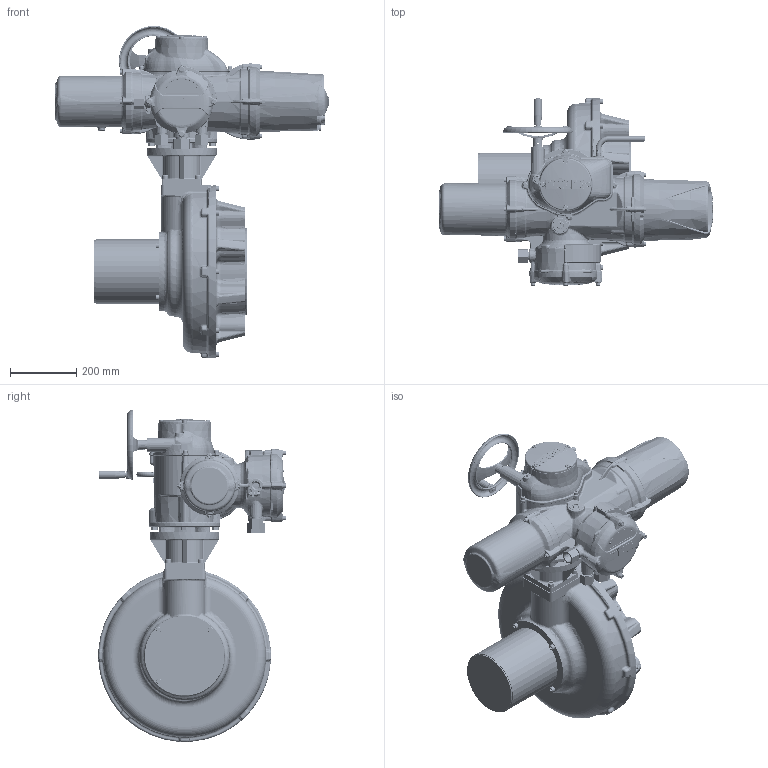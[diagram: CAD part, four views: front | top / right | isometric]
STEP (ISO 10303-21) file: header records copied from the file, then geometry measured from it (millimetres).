
FILE_DESCRIPTION(/* description */ ('Unknown'),/* implementation_level */ '2;1');
FILE_NAME(/* name */ 'II3SHWIB13STD-1',/* time_stamp */ '2016-06-23T17:51:03+01:00',/* author */ ('Unknown'),/* organization */ ('Unknown'),/* preprocessor_version */ 'ST-DEVELOPER v16',/* originating_system */ 'DEX',/* authorisation */ $);
FILE_SCHEMA (('AUTOMOTIVE_DESIGN {1 0 10303 214 3 1 1}'));
Products named in the file (1): II3SHWIB13STD-1
Bounding box: 825.55 x 564.49 x 999.49 mm (x, y, z)
Volume: 5362978.3 mm3; surface area: 2407549.4 mm2
Topology: 76 solids, 77 shells, 8079 faces, 20253 edges, 12030 vertices
Faces by surface type: plane 2688, bspline 2576, cylinder 1093, torus 795, cone 692, sphere 235
Full cylindrical faces by diameter (mm): 0.2 x1, 1.152 x1, 3 x8, 4.753 x1, 4.773 x1, 4.917 x6, 5.5 x1, 6 x6, 6.2 x3, 6.4 x1, 6.45 x8, 6.47 x8, 6.5 x1, 6.75 x1, 7 x4, 7.6 x4, 8 x21, 8.1 x1, 8.2 x1, 8.5 x4, 9.7 x2, 10 x13, 10.45 x4, 10.47 x4, 10.5 x8, 11.5 x4, 11.78 x1, 12 x9, 12.1 x1, 12.444 x1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
Entity records: 417830 total; most frequent: CARTESIAN_POINT 193732, ORIENTED_EDGE 38096, DIRECTION 29423, EDGE_CURVE 19048, AXIS2_PLACEMENT_3D 12104, VERTEX_POINT 11697, FACE_BOUND 8909, EDGE_LOOP 8877
